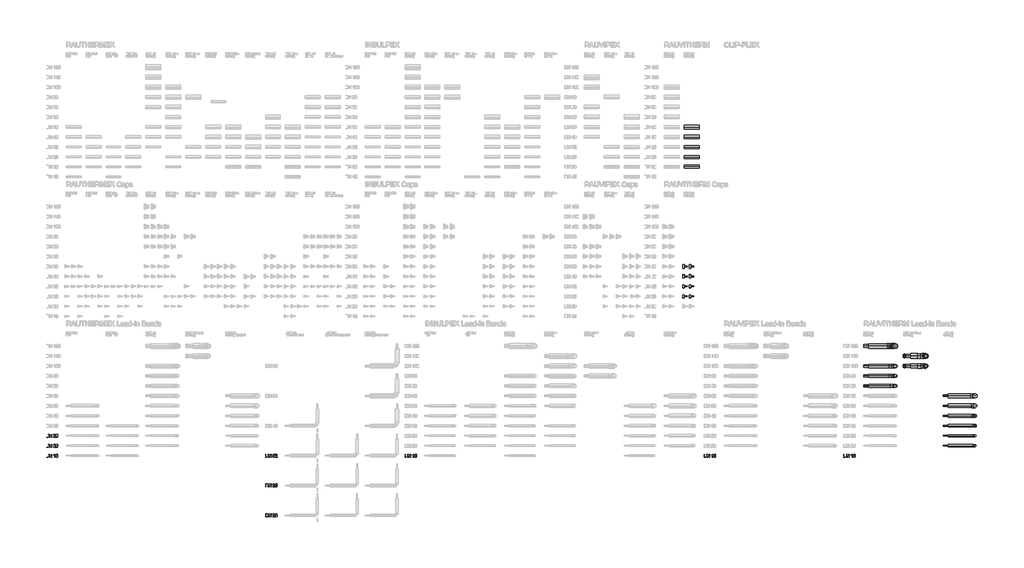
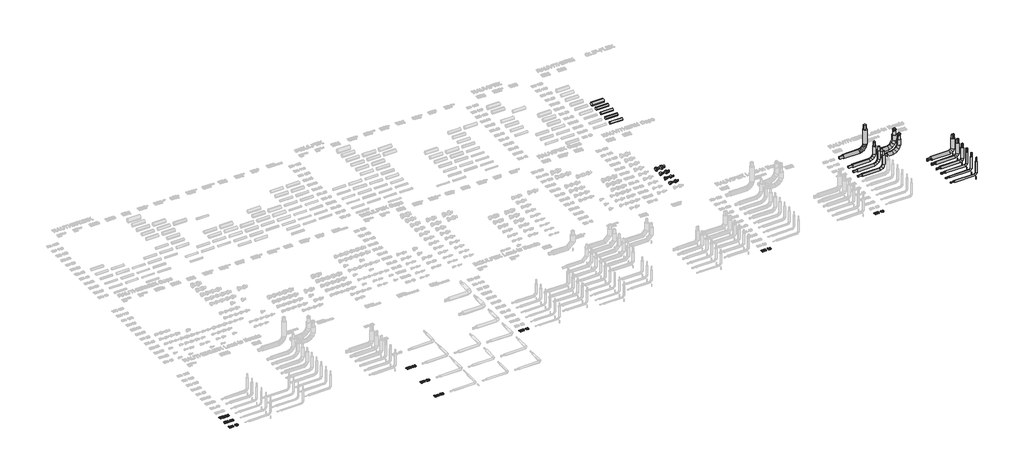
# One storey, part 8 of 44: 20 pipe fittings, 9 proxies, 5 pipe segments.
"""IFC4 building model written with IfcOpenShell, lengths in millimetres."""

from ifc_helpers import new_model, si_unit, point, frame, frame_2d, origin, origin_with_axes, place, context, project, spatial, polyline, circle_curve, trimmed, segment, composite_curve, outline, extrude, transform, mapped, element, save
from components import dh_duo_cap_b7e61209, dh_duo_cap_4544f480, dh_duo_cap_27d9f26a, dh_duo_cap_68a2c823, dh_lead_in_bend_4d10f37f, dh_lead_in_bend_729ed1e1, dh_lead_in_bend_01470123, dh_lead_in_bend_c489b661, dh_lead_in_bend_f1abdf10, dh_lead_in_bend_31b992d6, dh_lead_in_bend_53604a29, dh_lead_in_bend_594914a1, dh_lead_in_bend_a448e4b1, dh_lead_in_bend_b3935c15, dh_lead_in_bend_179b0c8a, dh_lead_in_bend_0ec1a931

model = new_model("IFC4")

# Units and contexts
model_context = context("Model", 3, world=origin())
ifc_project = project(units=[si_unit("LENGTHUNIT", "METRE", prefix="MILLI")], contexts=[model_context])

# Site, building, storey
site = spatial("IfcSite", under=ifc_project)
building = spatial("IfcBuilding", under=site)
storey = spatial("IfcBuildingStorey", under=building, Name="REHAU Starting view", Elevation=0.0)

# Proxies
placement = place(None, origin())
element("IfcBuildingElementProxy", 1, Name="150", ObjectType="150", at=placement, inside=storey, context=model_context, shape_type="SweptSolid", body=[
    extrude(outline(polyline([(16.4811134, -75.0), (16.4811134, 75.6844652), (68.4628393, 75.6844652), (95.3550131, 73.5139615), (117.5015093, 62.735019), (127.9217668, 51.2571007), (135.343786, 36.9832793), (139.7859611, 20.1894663), (141.2666861, 1.151573), (137.2567724, -29.2538739), (126.9560765, -51.1980349), (113.1972899, -64.864851), (95.1894663, -72.424826), (70.9644369, -75.0), (16.4811134, -75.0)]), holes=[polyline([(35.3166715, -56.1644418), (68.6467803, -56.1644418), (92.8902038, -53.4421151), (106.8697196, -45.7533814), (118.3292437, -27.0465819), (122.431128, 1.4458786), (120.4215726, 21.9736939), (114.3929064, 37.1304321), (105.4855636, 47.5414926), (94.8399784, 53.8322747), (68.1317455, 56.8489071), (35.3166715, 56.8489071), (35.3166715, -56.1644418)])]), origin_with_axes(), (0.0, 0.0, 1.0), 20.0),
    extrude(outline(polyline([(167.1655786, -75.0), (167.1655786, 75.6844652), (187.3255119, 75.6844652), (266.0522589, -43.6932422), (266.0522589, 75.6844652), (284.8878171, 75.6844652), (284.8878171, -75.0), (264.7278837, -75.0), (186.0011368, 44.4144956), (186.0011368, -75.0), (167.1655786, -75.0)])), origin_with_axes(), (0.0, 0.0, 1.0), 20.0),
    extrude(outline(polyline([(440.2811718, -75.0), (421.4456137, -75.0), (421.4456137, 42.4279329), (403.6033369, 29.7176099), (383.7744974, 20.2078604), (383.7744974, 38.0133489), (411.3840411, 55.6348965), (428.141066, 75.6844652), (440.2811718, 75.6844652), (440.2811718, -75.0)])), origin_with_axes(), (0.0, 0.0, 1.0), 20.0),
    extrude(outline(polyline([(485.0156224, -34.9744389), (503.8511806, -32.6199942), (507.3092713, -43.927767), (513.3425361, -52.0257694), (521.9233836, -56.8956073), (533.0242228, -58.5188866), (546.525492, -56.2610109), (556.6422469, -49.4873836), (562.9606202, -38.9797541), (565.0667446, -25.5198716), (563.0939774, -12.8463369), (557.1756758, -3.1526463), (547.2658545, 3.00018), (533.3185284, 5.0511222), (516.7822327, 1.7769724), (506.2056254, -6.7211017), (487.3700672, -4.3666569), (503.8511806, 73.3300205), (576.8389684, 73.3300205), (576.8389684, 54.4944623), (519.0814952, 54.4944623), (511.0248795, 12.9973732), (524.4801635, 21.1643535), (538.5792409, 23.8866803), (556.1777959, 20.511363), (570.7873096, 10.3854111), (580.6235545, -5.0472386), (583.9023027, -24.3426493), (580.9500497, -43.1782074), (572.0932907, -59.2914388), (555.1339307, -72.8386933), (532.9506464, -77.3544448), (514.4507806, -74.4527755), (499.7125081, -65.7477678), (489.6095489, -52.2510971), (485.0156224, -34.9744389)])), origin_with_axes(), (0.0, 0.0, 1.0), 20.0),
])
element("IfcBuildingElementProxy", 2, Name="150", ObjectType="150", at=placement, inside=storey, context=model_context, shape_type="SweptSolid", body=[
    extrude(outline(polyline([(16.4811134, 425.0), (16.4811134, 575.6844652), (68.4628393, 575.6844652), (95.3550131, 573.5139615), (117.5015093, 562.735019), (127.9217668, 551.2571007), (135.343786, 536.9832793), (139.7859611, 520.1894663), (141.2666861, 501.151573), (137.2567724, 470.7461261), (126.9560765, 448.8019651), (113.1972899, 435.135149), (95.1894663, 427.575174), (70.9644369, 425.0), (16.4811134, 425.0)]), holes=[polyline([(35.3166715, 443.8355582), (68.6467803, 443.8355582), (92.8902038, 446.5578849), (106.8697196, 454.2466186), (118.3292437, 472.9534181), (122.431128, 501.4458786), (120.4215726, 521.9736939), (114.3929064, 537.1304321), (105.4855636, 547.5414926), (94.8399784, 553.8322747), (68.1317455, 556.8489071), (35.3166715, 556.8489071), (35.3166715, 443.8355582)])]), origin_with_axes(), (0.0, 0.0, 1.0), 20.0),
    extrude(outline(polyline([(167.1655786, 425.0), (167.1655786, 575.6844652), (187.3255119, 575.6844652), (266.0522589, 456.3067578), (266.0522589, 575.6844652), (284.8878171, 575.6844652), (284.8878171, 425.0), (264.7278837, 425.0), (186.0011368, 544.4144956), (186.0011368, 425.0), (167.1655786, 425.0)])), origin_with_axes(), (0.0, 0.0, 1.0), 20.0),
    extrude(outline(polyline([(466.1800643, 443.8355582), (466.1800643, 425.0), (367.293384, 425.0), (369.316735, 437.9862344), (380.757865, 457.9806209), (404.3391009, 479.8144173), (436.8598693, 511.1947515), (442.9575133, 522.0104821), (444.9900614, 532.5319072), (443.0724765, 541.9634818), (437.3197218, 549.8039669), (428.4767583, 555.087672), (417.2885471, 556.8489071), (405.5393159, 555.1290587), (396.4112439, 549.9695138), (390.5205335, 541.7749423), (388.4833869, 530.9500146), (369.6478288, 533.3044594), (374.214164, 551.5238152), (384.0871971, 564.8319464), (398.7518931, 572.9713355), (417.6932173, 575.6844652), (436.7724973, 572.6678329), (451.4096022, 563.6179358), (460.7216152, 550.0982725), (463.8256195, 533.6723414), (460.4778934, 515.8116705), (449.349463, 497.3439944), (422.3653187, 471.5370724), (400.6970691, 453.4188841), (392.1989951, 443.8355582), (466.1800643, 443.8355582)])), origin_with_axes(), (0.0, 0.0, 1.0), 20.0),
    extrude(outline(polyline([(485.0156224, 499.128222), (486.3997784, 523.2474853), (490.5522465, 542.4831152), (497.4316398, 557.1294171), (506.9965717, 567.4806967), (519.31602, 573.6335231), (534.4589626, 575.6844652), (556.4583059, 570.8284229), (571.6518323, 556.830513), (580.4810002, 534.5368641), (583.9023027, 499.128222), (582.5319423, 475.1469145), (578.420861, 455.9572699), (571.5828544, 441.2971724), (562.0317181, 430.904506), (549.6846787, 424.7102929), (534.4589626, 422.6455552), (514.8876404, 426.2324047), (500.0252078, 436.992953), (488.7680188, 462.4779783), (485.0156224, 499.128222)]), holes=[polyline([(503.8511806, 499.1650102), (506.0584726, 469.536714), (512.6803485, 452.3888145), (522.5395859, 444.2080387), (534.4589626, 441.4811134), (546.3783392, 444.2172357), (556.2375767, 452.4256027), (562.8594526, 469.5826993), (565.0667446, 499.1650102), (562.933029, 528.1265203), (556.5318823, 545.407777), (546.6910389, 553.9886246), (534.2382334, 556.8489071), (522.4476155, 554.3289154), (512.9746541, 546.7689404), (506.132049, 528.4116288), (503.8511806, 499.1650102)])]), origin_with_axes(), (0.0, 0.0, 1.0), 20.0),
])
element("IfcBuildingElementProxy", 3, Name="150", ObjectType="150", at=placement, inside=storey, context=model_context, shape_type="SweptSolid", body=[
    extrude(outline(polyline([(16.4811134, 925.0), (16.4811134, 1075.6844652), (68.4628393, 1075.6844652), (95.3550131, 1073.5139615), (117.5015093, 1062.735019), (127.9217668, 1051.2571007), (135.343786, 1036.9832793), (139.7859611, 1020.1894663), (141.2666861, 1001.151573), (137.2567724, 970.7461261), (126.9560765, 948.8019651), (113.1972899, 935.135149), (95.1894663, 927.575174), (70.9644369, 925.0), (16.4811134, 925.0)]), holes=[polyline([(35.3166715, 943.8355582), (68.6467803, 943.8355582), (92.8902038, 946.5578849), (106.8697196, 954.2466186), (118.3292437, 972.9534181), (122.431128, 1001.4458786), (120.4215726, 1021.9736939), (114.3929064, 1037.1304321), (105.4855636, 1047.5414926), (94.8399784, 1053.8322747), (68.1317455, 1056.8489071), (35.3166715, 1056.8489071), (35.3166715, 943.8355582)])]), origin_with_axes(), (0.0, 0.0, 1.0), 20.0),
    extrude(outline(polyline([(167.1655786, 925.0), (167.1655786, 1075.6844652), (187.3255119, 1075.6844652), (266.0522589, 956.3067578), (266.0522589, 1075.6844652), (284.8878171, 1075.6844652), (284.8878171, 925.0), (264.7278837, 925.0), (186.0011368, 1044.4144956), (186.0011368, 925.0), (167.1655786, 925.0)])), origin_with_axes(), (0.0, 0.0, 1.0), 20.0),
    extrude(outline(polyline([(466.1800643, 943.8355582), (466.1800643, 925.0), (367.293384, 925.0), (369.316735, 937.9862344), (380.757865, 957.9806209), (404.3391009, 979.8144173), (436.8598693, 1011.1947515), (442.9575133, 1022.0104821), (444.9900614, 1032.5319072), (443.0724765, 1041.9634818), (437.3197218, 1049.8039669), (428.4767583, 1055.087672), (417.2885471, 1056.8489071), (405.5393159, 1055.1290587), (396.4112439, 1049.9695138), (390.5205335, 1041.7749423), (388.4833869, 1030.9500146), (369.6478288, 1033.3044594), (374.214164, 1051.5238152), (384.0871971, 1064.8319464), (398.7518931, 1072.9713355), (417.6932173, 1075.6844652), (436.7724973, 1072.6678329), (451.4096022, 1063.6179358), (460.7216152, 1050.0982725), (463.8256195, 1033.6723414), (460.4778934, 1015.8116705), (449.349463, 997.3439944), (422.3653187, 971.5370724), (400.6970691, 953.4188841), (392.1989951, 943.8355582), (466.1800643, 943.8355582)])), origin_with_axes(), (0.0, 0.0, 1.0), 20.0),
    extrude(outline(polyline([(485.0156224, 965.0255611), (503.8511806, 967.3800058), (507.3092713, 956.072233), (513.3425361, 947.9742306), (521.9233836, 943.1043927), (533.0242228, 941.4811134), (546.525492, 943.7389891), (556.6422469, 950.5126164), (562.9606202, 961.0202459), (565.0667446, 974.4801284), (563.0939774, 987.1536631), (557.1756758, 996.8473537), (547.2658545, 1003.00018), (533.3185284, 1005.0511222), (516.7822327, 1001.7769724), (506.2056254, 993.2788983), (487.3700672, 995.6333431), (503.8511806, 1073.3300205), (576.8389684, 1073.3300205), (576.8389684, 1054.4944623), (519.0814952, 1054.4944623), (511.0248795, 1012.9973732), (524.4801635, 1021.1643535), (538.5792409, 1023.8866803), (556.1777959, 1020.511363), (570.7873096, 1010.3854111), (580.6235545, 994.9527614), (583.9023027, 975.6573507), (580.9500497, 956.8217926), (572.0932907, 940.7085612), (555.1339307, 927.1613067), (532.9506464, 922.6455552), (514.4507806, 925.5472245), (499.7125081, 934.2522322), (489.6095489, 947.7489029), (485.0156224, 965.0255611)])), origin_with_axes(), (0.0, 0.0, 1.0), 20.0),
])
element("IfcBuildingElementProxy", 4, Name="150", ObjectType="150", at=placement, inside=storey, context=model_context, shape_type="SweptSolid", body=[
    extrude(outline(polyline([(18016.4811134, -75.0), (18016.4811134, 75.6844652), (18068.4628393, 75.6844652), (18095.3550131, 73.5139615), (18117.5015093, 62.735019), (18127.9217668, 51.2571007), (18135.343786, 36.9832793), (18139.7859611, 20.1894663), (18141.2666861, 1.151573), (18137.2567724, -29.2538739), (18126.9560765, -51.1980349), (18113.1972899, -64.864851), (18095.1894663, -72.424826), (18070.9644369, -75.0), (18016.4811134, -75.0)]), holes=[polyline([(18035.3166715, -56.1644418), (18068.6467803, -56.1644418), (18092.8902038, -53.4421151), (18106.8697196, -45.7533814), (18118.3292437, -27.0465819), (18122.431128, 1.4458786), (18120.4215726, 21.9736939), (18114.3929064, 37.1304321), (18105.4855636, 47.5414926), (18094.8399784, 53.8322747), (18068.1317455, 56.8489071), (18035.3166715, 56.8489071), (18035.3166715, -56.1644418)])]), origin_with_axes(), (0.0, 0.0, 1.0), 20.0),
    extrude(outline(polyline([(18167.1655786, -75.0), (18167.1655786, 75.6844652), (18187.3255119, 75.6844652), (18266.0522589, -43.6932422), (18266.0522589, 75.6844652), (18284.8878171, 75.6844652), (18284.8878171, -75.0), (18264.7278837, -75.0), (18186.0011368, 44.4144956), (18186.0011368, -75.0), (18167.1655786, -75.0)])), origin_with_axes(), (0.0, 0.0, 1.0), 20.0),
    extrude(outline(polyline([(18440.2811718, -75.0), (18421.4456137, -75.0), (18421.4456137, 42.4279329), (18403.6033369, 29.7176099), (18383.7744974, 20.2078604), (18383.7744974, 38.0133489), (18411.3840411, 55.6348965), (18428.141066, 75.6844652), (18440.2811718, 75.6844652), (18440.2811718, -75.0)])), origin_with_axes(), (0.0, 0.0, 1.0), 20.0),
    extrude(outline(polyline([(18485.0156224, -34.9744389), (18503.8511806, -32.6199942), (18507.3092713, -43.927767), (18513.3425361, -52.0257694), (18521.9233836, -56.8956073), (18533.0242228, -58.5188866), (18546.525492, -56.2610109), (18556.6422469, -49.4873836), (18562.9606202, -38.9797541), (18565.0667446, -25.5198716), (18563.0939774, -12.8463369), (18557.1756758, -3.1526463), (18547.2658545, 3.00018), (18533.3185284, 5.0511222), (18516.7822327, 1.7769724), (18506.2056254, -6.7211017), (18487.3700672, -4.3666569), (18503.8511806, 73.3300205), (18576.8389684, 73.3300205), (18576.8389684, 54.4944623), (18519.0814952, 54.4944623), (18511.0248795, 12.9973732), (18524.4801635, 21.1643535), (18538.5792409, 23.8866803), (18556.1777959, 20.511363), (18570.7873096, 10.3854111), (18580.6235545, -5.0472386), (18583.9023027, -24.3426493), (18580.9500497, -43.1782074), (18572.0932907, -59.2914388), (18555.1339307, -72.8386933), (18532.9506464, -77.3544448), (18514.4507806, -74.4527755), (18499.7125081, -65.7477678), (18489.6095489, -52.2510971), (18485.0156224, -34.9744389)])), origin_with_axes(), (0.0, 0.0, 1.0), 20.0),
])
element("IfcBuildingElementProxy", 5, Name="150", ObjectType="150", at=placement, inside=storey, context=model_context, shape_type="SweptSolid", body=[
    extrude(outline(polyline([(33016.4811134, -75.0), (33016.4811134, 75.6844652), (33068.4628393, 75.6844652), (33095.3550131, 73.5139615), (33117.5015093, 62.735019), (33127.9217668, 51.2571007), (33135.343786, 36.9832793), (33139.7859611, 20.1894663), (33141.2666861, 1.151573), (33137.2567724, -29.2538739), (33126.9560765, -51.1980349), (33113.1972899, -64.864851), (33095.1894663, -72.424826), (33070.9644369, -75.0), (33016.4811134, -75.0)]), holes=[polyline([(33035.3166715, -56.1644418), (33068.6467803, -56.1644418), (33092.8902038, -53.4421151), (33106.8697196, -45.7533814), (33118.3292437, -27.0465819), (33122.431128, 1.4458786), (33120.4215726, 21.9736939), (33114.3929064, 37.1304321), (33105.4855636, 47.5414926), (33094.8399784, 53.8322747), (33068.1317455, 56.8489071), (33035.3166715, 56.8489071), (33035.3166715, -56.1644418)])]), origin_with_axes(), (0.0, 0.0, 1.0), 20.0),
    extrude(outline(polyline([(33167.1655786, -75.0), (33167.1655786, 75.6844652), (33187.3255119, 75.6844652), (33266.0522589, -43.6932422), (33266.0522589, 75.6844652), (33284.8878171, 75.6844652), (33284.8878171, -75.0), (33264.7278837, -75.0), (33186.0011368, 44.4144956), (33186.0011368, -75.0), (33167.1655786, -75.0)])), origin_with_axes(), (0.0, 0.0, 1.0), 20.0),
    extrude(outline(polyline([(33440.2811718, -75.0), (33421.4456137, -75.0), (33421.4456137, 42.4279329), (33403.6033369, 29.7176099), (33383.7744974, 20.2078604), (33383.7744974, 38.0133489), (33411.3840411, 55.6348965), (33428.141066, 75.6844652), (33440.2811718, 75.6844652), (33440.2811718, -75.0)])), origin_with_axes(), (0.0, 0.0, 1.0), 20.0),
    extrude(outline(polyline([(33485.0156224, -34.9744389), (33503.8511806, -32.6199942), (33507.3092713, -43.927767), (33513.3425361, -52.0257694), (33521.9233836, -56.8956073), (33533.0242228, -58.5188866), (33546.525492, -56.2610109), (33556.6422469, -49.4873836), (33562.9606202, -38.9797541), (33565.0667446, -25.5198716), (33563.0939774, -12.8463369), (33557.1756758, -3.1526463), (33547.2658545, 3.00018), (33533.3185284, 5.0511222), (33516.7822327, 1.7769724), (33506.2056254, -6.7211017), (33487.3700672, -4.3666569), (33503.8511806, 73.3300205), (33576.8389684, 73.3300205), (33576.8389684, 54.4944623), (33519.0814952, 54.4944623), (33511.0248795, 12.9973732), (33524.4801635, 21.1643535), (33538.5792409, 23.8866803), (33556.1777959, 20.511363), (33570.7873096, 10.3854111), (33580.6235545, -5.0472386), (33583.9023027, -24.3426493), (33580.9500497, -43.1782074), (33572.0932907, -59.2914388), (33555.1339307, -72.8386933), (33532.9506464, -77.3544448), (33514.4507806, -74.4527755), (33499.7125081, -65.7477678), (33489.6095489, -52.2510971), (33485.0156224, -34.9744389)])), origin_with_axes(), (0.0, 0.0, 1.0), 20.0),
])
element("IfcBuildingElementProxy", 6, Name="150", ObjectType="150", at=placement, inside=storey, context=model_context, shape_type="SweptSolid", body=[
    extrude(outline(polyline([(40016.4811134, -75.0), (40016.4811134, 75.6844652), (40068.4628393, 75.6844652), (40095.3550131, 73.5139615), (40117.5015093, 62.735019), (40127.9217668, 51.2571007), (40135.343786, 36.9832793), (40139.7859611, 20.1894663), (40141.2666861, 1.151573), (40137.2567724, -29.2538739), (40126.9560765, -51.1980349), (40113.1972899, -64.864851), (40095.1894663, -72.424826), (40070.9644369, -75.0), (40016.4811134, -75.0)]), holes=[polyline([(40035.3166715, -56.1644418), (40068.6467803, -56.1644418), (40092.8902038, -53.4421151), (40106.8697196, -45.7533814), (40118.3292437, -27.0465819), (40122.431128, 1.4458786), (40120.4215726, 21.9736939), (40114.3929064, 37.1304321), (40105.4855636, 47.5414926), (40094.8399784, 53.8322747), (40068.1317455, 56.8489071), (40035.3166715, 56.8489071), (40035.3166715, -56.1644418)])]), origin_with_axes(), (0.0, 0.0, 1.0), 20.0),
    extrude(outline(polyline([(40167.1655786, -75.0), (40167.1655786, 75.6844652), (40187.3255119, 75.6844652), (40266.0522589, -43.6932422), (40266.0522589, 75.6844652), (40284.8878171, 75.6844652), (40284.8878171, -75.0), (40264.7278837, -75.0), (40186.0011368, 44.4144956), (40186.0011368, -75.0), (40167.1655786, -75.0)])), origin_with_axes(), (0.0, 0.0, 1.0), 20.0),
    extrude(outline(polyline([(40440.2811718, -75.0), (40421.4456137, -75.0), (40421.4456137, 42.4279329), (40403.6033369, 29.7176099), (40383.7744974, 20.2078604), (40383.7744974, 38.0133489), (40411.3840411, 55.6348965), (40428.141066, 75.6844652), (40440.2811718, 75.6844652), (40440.2811718, -75.0)])), origin_with_axes(), (0.0, 0.0, 1.0), 20.0),
    extrude(outline(polyline([(40485.0156224, -34.9744389), (40503.8511806, -32.6199942), (40507.3092713, -43.927767), (40513.3425361, -52.0257694), (40521.9233836, -56.8956073), (40533.0242228, -58.5188866), (40546.525492, -56.2610109), (40556.6422469, -49.4873836), (40562.9606202, -38.9797541), (40565.0667446, -25.5198716), (40563.0939774, -12.8463369), (40557.1756758, -3.1526463), (40547.2658545, 3.00018), (40533.3185284, 5.0511222), (40516.7822327, 1.7769724), (40506.2056254, -6.7211017), (40487.3700672, -4.3666569), (40503.8511806, 73.3300205), (40576.8389684, 73.3300205), (40576.8389684, 54.4944623), (40519.0814952, 54.4944623), (40511.0248795, 12.9973732), (40524.4801635, 21.1643535), (40538.5792409, 23.8866803), (40556.1777959, 20.511363), (40570.7873096, 10.3854111), (40580.6235545, -5.0472386), (40583.9023027, -24.3426493), (40580.9500497, -43.1782074), (40572.0932907, -59.2914388), (40555.1339307, -72.8386933), (40532.9506464, -77.3544448), (40514.4507806, -74.4527755), (40499.7125081, -65.7477678), (40489.6095489, -52.2510971), (40485.0156224, -34.9744389)])), origin_with_axes(), (0.0, 0.0, 1.0), 20.0),
])
element("IfcBuildingElementProxy", 7, Name="150", ObjectType="150", at=placement, inside=storey, context=model_context, shape_type="SweptSolid", body=[
    extrude(outline(polyline([(11016.4811134, -3075.0), (11016.4811134, -2924.3155348), (11068.4628393, -2924.3155348), (11095.3550131, -2926.4860385), (11117.5015093, -2937.264981), (11127.9217668, -2948.7428993), (11135.343786, -2963.0167207), (11139.7859611, -2979.8105337), (11141.2666861, -2998.848427), (11137.2567724, -3029.2538739), (11126.9560765, -3051.1980349), (11113.1972899, -3064.864851), (11095.1894663, -3072.424826), (11070.9644369, -3075.0), (11016.4811134, -3075.0)]), holes=[polyline([(11035.3166715, -3056.1644418), (11068.6467803, -3056.1644418), (11092.8902038, -3053.4421151), (11106.8697196, -3045.7533814), (11118.3292437, -3027.0465819), (11122.431128, -2998.5541214), (11120.4215726, -2978.0263061), (11114.3929064, -2962.8695679), (11105.4855636, -2952.4585074), (11094.8399784, -2946.1677253), (11068.1317455, -2943.1510929), (11035.3166715, -2943.1510929), (11035.3166715, -3056.1644418)])]), origin_with_axes(), (0.0, 0.0, 1.0), 20.0),
    extrude(outline(polyline([(11167.1655786, -3075.0), (11167.1655786, -2924.3155348), (11187.3255119, -2924.3155348), (11266.0522589, -3043.6932422), (11266.0522589, -2924.3155348), (11284.8878171, -2924.3155348), (11284.8878171, -3075.0), (11264.7278837, -3075.0), (11186.0011368, -2955.5855044), (11186.0011368, -3075.0), (11167.1655786, -3075.0)])), origin_with_axes(), (0.0, 0.0, 1.0), 20.0),
    extrude(outline(polyline([(11466.1800643, -3056.1644418), (11466.1800643, -3075.0), (11367.293384, -3075.0), (11369.316735, -3062.0137656), (11380.757865, -3042.0193791), (11404.3391009, -3020.1855827), (11436.8598693, -2988.8052485), (11442.9575133, -2977.9895179), (11444.9900614, -2967.4680928), (11443.0724765, -2958.0365182), (11437.3197218, -2950.1960331), (11428.4767583, -2944.912328), (11417.2885471, -2943.1510929), (11405.5393159, -2944.8709413), (11396.4112439, -2950.0304862), (11390.5205335, -2958.2250577), (11388.4833869, -2969.0499854), (11369.6478288, -2966.6955406), (11374.214164, -2948.4761848), (11384.0871971, -2935.1680536), (11398.7518931, -2927.0286645), (11417.6932173, -2924.3155348), (11436.7724973, -2927.3321671), (11451.4096022, -2936.3820642), (11460.7216152, -2949.9017275), (11463.8256195, -2966.3276586), (11460.4778934, -2984.1883295), (11449.349463, -3002.6560056), (11422.3653187, -3028.4629276), (11400.6970691, -3046.5811159), (11392.1989951, -3056.1644418), (11466.1800643, -3056.1644418)])), origin_with_axes(), (0.0, 0.0, 1.0), 20.0),
    extrude(outline(polyline([(11485.0156224, -3000.871778), (11486.3997784, -2976.7525147), (11490.5522465, -2957.5168848), (11497.4316398, -2942.8705829), (11506.9965717, -2932.5193033), (11519.31602, -2926.3664769), (11534.4589626, -2924.3155348), (11556.4583059, -2929.1715771), (11571.6518323, -2943.169487), (11580.4810002, -2965.4631359), (11583.9023027, -3000.871778), (11582.5319423, -3024.8530855), (11578.420861, -3044.0427301), (11571.5828544, -3058.7028276), (11562.0317181, -3069.095494), (11549.6846787, -3075.2897071), (11534.4589626, -3077.3544448), (11514.8876404, -3073.7675953), (11500.0252078, -3063.007047), (11488.7680188, -3037.5220217), (11485.0156224, -3000.871778)]), holes=[polyline([(11503.8511806, -3000.8349898), (11506.0584726, -3030.463286), (11512.6803485, -3047.6111855), (11522.5395859, -3055.7919613), (11534.4589626, -3058.5188866), (11546.3783392, -3055.7827643), (11556.2375767, -3047.5743973), (11562.8594526, -3030.4173007), (11565.0667446, -3000.8349898), (11562.933029, -2971.8734797), (11556.5318823, -2954.592223), (11546.6910389, -2946.0113754), (11534.2382334, -2943.1510929), (11522.4476155, -2945.6710846), (11512.9746541, -2953.2310596), (11506.132049, -2971.5883712), (11503.8511806, -3000.8349898)])]), origin_with_axes(), (0.0, 0.0, 1.0), 20.0),
])
element("IfcBuildingElementProxy", 8, Name="150", ObjectType="150", at=placement, inside=storey, context=model_context, shape_type="SweptSolid", body=[
    extrude(outline(polyline([(11016.4811134, -1575.0), (11016.4811134, -1424.3155348), (11068.4628393, -1424.3155348), (11095.3550131, -1426.4860385), (11117.5015093, -1437.264981), (11127.9217668, -1448.7428993), (11135.343786, -1463.0167207), (11139.7859611, -1479.8105337), (11141.2666861, -1498.848427), (11137.2567724, -1529.2538739), (11126.9560765, -1551.1980349), (11113.1972899, -1564.864851), (11095.1894663, -1572.424826), (11070.9644369, -1575.0), (11016.4811134, -1575.0)]), holes=[polyline([(11035.3166715, -1556.1644418), (11068.6467803, -1556.1644418), (11092.8902038, -1553.4421151), (11106.8697196, -1545.7533814), (11118.3292437, -1527.0465819), (11122.431128, -1498.5541214), (11120.4215726, -1478.0263061), (11114.3929064, -1462.8695679), (11105.4855636, -1452.4585074), (11094.8399784, -1446.1677253), (11068.1317455, -1443.1510929), (11035.3166715, -1443.1510929), (11035.3166715, -1556.1644418)])]), origin_with_axes(), (0.0, 0.0, 1.0), 20.0),
    extrude(outline(polyline([(11167.1655786, -1575.0), (11167.1655786, -1424.3155348), (11187.3255119, -1424.3155348), (11266.0522589, -1543.6932422), (11266.0522589, -1424.3155348), (11284.8878171, -1424.3155348), (11284.8878171, -1575.0), (11264.7278837, -1575.0), (11186.0011368, -1455.5855044), (11186.0011368, -1575.0), (11167.1655786, -1575.0)])), origin_with_axes(), (0.0, 0.0, 1.0), 20.0),
    extrude(outline(polyline([(11466.1800643, -1556.1644418), (11466.1800643, -1575.0), (11367.293384, -1575.0), (11369.316735, -1562.0137656), (11380.757865, -1542.0193791), (11404.3391009, -1520.1855827), (11436.8598693, -1488.8052485), (11442.9575133, -1477.9895179), (11444.9900614, -1467.4680928), (11443.0724765, -1458.0365182), (11437.3197218, -1450.1960331), (11428.4767583, -1444.912328), (11417.2885471, -1443.1510929), (11405.5393159, -1444.8709413), (11396.4112439, -1450.0304862), (11390.5205335, -1458.2250577), (11388.4833869, -1469.0499854), (11369.6478288, -1466.6955406), (11374.214164, -1448.4761848), (11384.0871971, -1435.1680536), (11398.7518931, -1427.0286645), (11417.6932173, -1424.3155348), (11436.7724973, -1427.3321671), (11451.4096022, -1436.3820642), (11460.7216152, -1449.9017275), (11463.8256195, -1466.3276586), (11460.4778934, -1484.1883295), (11449.349463, -1502.6560056), (11422.3653187, -1528.4629276), (11400.6970691, -1546.5811159), (11392.1989951, -1556.1644418), (11466.1800643, -1556.1644418)])), origin_with_axes(), (0.0, 0.0, 1.0), 20.0),
    extrude(outline(polyline([(11485.0156224, -1534.9744389), (11503.8511806, -1532.6199942), (11507.3092713, -1543.927767), (11513.3425361, -1552.0257694), (11521.9233836, -1556.8956073), (11533.0242228, -1558.5188866), (11546.525492, -1556.2610109), (11556.6422469, -1549.4873836), (11562.9606202, -1538.9797541), (11565.0667446, -1525.5198716), (11563.0939774, -1512.8463369), (11557.1756758, -1503.1526463), (11547.2658545, -1496.99982), (11533.3185284, -1494.9488778), (11516.7822327, -1498.2230276), (11506.2056254, -1506.7211017), (11487.3700672, -1504.3666569), (11503.8511806, -1426.6699795), (11576.8389684, -1426.6699795), (11576.8389684, -1445.5055377), (11519.0814952, -1445.5055377), (11511.0248795, -1487.0026268), (11524.4801635, -1478.8356465), (11538.5792409, -1476.1133197), (11556.1777959, -1479.488637), (11570.7873096, -1489.6145889), (11580.6235545, -1505.0472386), (11583.9023027, -1524.3426493), (11580.9500497, -1543.1782074), (11572.0932907, -1559.2914388), (11555.1339307, -1572.8386933), (11532.9506464, -1577.3544448), (11514.4507806, -1574.4527755), (11499.7125081, -1565.7477678), (11489.6095489, -1552.2510971), (11485.0156224, -1534.9744389)])), origin_with_axes(), (0.0, 0.0, 1.0), 20.0),
])
element("IfcBuildingElementProxy", 9, Name="150", ObjectType="150", at=placement, inside=storey, context=model_context, shape_type="SweptSolid", body=[
    extrude(outline(polyline([(11016.4811134, -75.0), (11016.4811134, 75.6844652), (11068.4628393, 75.6844652), (11095.3550131, 73.5139615), (11117.5015093, 62.735019), (11127.9217668, 51.2571007), (11135.343786, 36.9832793), (11139.7859611, 20.1894663), (11141.2666861, 1.151573), (11137.2567724, -29.2538739), (11126.9560765, -51.1980349), (11113.1972899, -64.864851), (11095.1894663, -72.424826), (11070.9644369, -75.0), (11016.4811134, -75.0)]), holes=[polyline([(11035.3166715, -56.1644418), (11068.6467803, -56.1644418), (11092.8902038, -53.4421151), (11106.8697196, -45.7533814), (11118.3292437, -27.0465819), (11122.431128, 1.4458786), (11120.4215726, 21.9736939), (11114.3929064, 37.1304321), (11105.4855636, 47.5414926), (11094.8399784, 53.8322747), (11068.1317455, 56.8489071), (11035.3166715, 56.8489071), (11035.3166715, -56.1644418)])]), origin_with_axes(), (0.0, 0.0, 1.0), 20.0),
    extrude(outline(polyline([(11167.1655786, -75.0), (11167.1655786, 75.6844652), (11187.3255119, 75.6844652), (11266.0522589, -43.6932422), (11266.0522589, 75.6844652), (11284.8878171, 75.6844652), (11284.8878171, -75.0), (11264.7278837, -75.0), (11186.0011368, 44.4144956), (11186.0011368, -75.0), (11167.1655786, -75.0)])), origin_with_axes(), (0.0, 0.0, 1.0), 20.0),
    extrude(outline(polyline([(11369.6478288, -34.9744389), (11388.4833869, -32.6199942), (11392.7002343, -44.4565974), (11398.8760533, -52.4488337), (11407.3143465, -57.0013734), (11418.3186167, -58.5188866), (11431.2312747, -56.4311563), (11441.2008768, -50.1679653), (11447.5744324, -40.8237626), (11449.6989509, -29.4929972), (11447.5928265, -18.7370474), (11441.2744532, -10.0136456), (11431.7095213, -4.2332997), (11419.8637211, -2.3065178), (11406.6567575, -4.3666569), (11408.7536848, 14.4689012), (11411.7703172, 14.248172), (11433.1442611, 19.6560374), (11440.2627777, 26.5170366), (11442.6356166, 36.2843035), (11440.9157683, 44.4190942), (11435.7562233, 51.0179774), (11427.8835486, 55.3911747), (11418.0243111, 56.8489071), (11408.1466795, 55.3773791), (11400.0716698, 50.9627951), (11394.1763608, 43.6051552), (11390.8378317, 33.3044594), (11372.0022735, 35.6589041), (11377.5480946, 52.5722789), (11387.4165291, 65.1998284), (11400.9177983, 73.063306), (11417.3621235, 75.6844652), (11440.0788367, 70.5157232), (11455.9713389, 56.3890546), (11461.4711747, 37.3879495), (11456.2472504, 20.0239194), (11440.7962066, 7.5527197), (11452.5868246, 2.7886479), (11461.324022, -5.3231501), (11466.7318873, -16.3412159), (11468.5345091, -29.824091), (11464.9292655, -48.1814026), (11454.1135348, -63.5220818), (11437.7887713, -73.896354), (11417.6564291, -77.3544448), (11399.4462704, -74.4021918), (11384.620626, -65.5454327), (11374.310733, -51.9981783), (11369.6478288, -34.9744389)])), origin_with_axes(), (0.0, 0.0, 1.0), 20.0),
    extrude(outline(polyline([(11581.547858, -56.1644418), (11581.547858, -75.0), (11482.6611777, -75.0), (11484.6845286, -62.0137656), (11496.1256587, -42.0193791), (11519.7068946, -20.1855827), (11552.227663, 11.1947515), (11558.325307, 22.0104821), (11560.3578551, 32.5319072), (11558.4402702, 41.9634818), (11552.6875155, 49.8039669), (11543.844552, 55.087672), (11532.6563408, 56.8489071), (11520.9071096, 55.1290587), (11511.7790376, 49.9695138), (11505.8883271, 41.7749423), (11503.8511806, 30.9500146), (11485.0156224, 33.3044594), (11489.5819577, 51.5238152), (11499.4549908, 64.8319464), (11514.1196868, 72.9713355), (11533.061011, 75.6844652), (11552.140291, 72.6678329), (11566.7773959, 63.6179358), (11576.0894089, 50.0982725), (11579.1934132, 33.6723414), (11575.8456871, 15.8116705), (11564.7172567, -2.6560056), (11537.7331123, -28.4629276), (11516.0648628, -46.5811159), (11507.5667887, -56.1644418), (11581.547858, -56.1644418)])), origin_with_axes(), (0.0, 0.0, 1.0), 20.0),
])

# Pipe fittings
dh_duo_cap_shape = dh_duo_cap_b7e61209(model_context)
element("IfcPipeFitting", 10, ObjectType="DH_DUO_CAP : RAUVITHERM DUO 11 Heating - Schrink Cap", at=placement, inside=storey, context=model_context, shape_type="MappedRepresentation", body=[
    mapped(dh_duo_cap_shape, transform((32000.0, 8000.0, 0.0), x_axis=(1.0, 0.0, 0.0), y_axis=(0.0, 1.0, 0.0), z_axis=(0.0, 0.0, 1.0))),
])
element("IfcPipeFitting", 11, ObjectType="DH_DUO_CAP : RAUVITHERM DUO 11 Heating - Rubber Cap", at=placement, inside=storey, context=model_context, shape_type="MappedRepresentation", body=[
    mapped(dh_duo_cap_shape, transform((32330.0, 8000.0, 0.0), x_axis=(1.0, 0.0, 0.0), y_axis=(0.0, 1.0, 0.0), z_axis=(0.0, 0.0, 1.0))),
])
dh_duo_cap_2_shape = dh_duo_cap_4544f480(model_context)
element("IfcPipeFitting", 12, ObjectType="DH_DUO_CAP : RAUVITHERM DUO 11 Heating - Rubber Cap", at=placement, inside=storey, context=model_context, shape_type="MappedRepresentation", body=[
    mapped(dh_duo_cap_2_shape, transform((32330.0, 8500.0, 0.0), x_axis=(1.0, 0.0, 0.0), y_axis=(0.0, 1.0, 0.0), z_axis=(0.0, 0.0, 1.0))),
])
element("IfcPipeFitting", 13, ObjectType="DH_DUO_CAP : RAUVITHERM DUO 11 Heating - Schrink Cap", at=placement, inside=storey, context=model_context, shape_type="MappedRepresentation", body=[
    mapped(dh_duo_cap_2_shape, transform((32000.0, 8500.0, 0.0), x_axis=(1.0, 0.0, 0.0), y_axis=(0.0, 1.0, 0.0), z_axis=(0.0, 0.0, 1.0))),
])
dh_duo_cap_3_shape = dh_duo_cap_27d9f26a(model_context)
element("IfcPipeFitting", 14, ObjectType="DH_DUO_CAP : RAUVITHERM DUO 11 Heating - Rubber Cap", at=placement, inside=storey, context=model_context, shape_type="MappedRepresentation", body=[
    mapped(dh_duo_cap_3_shape, transform((32330.0, 9000.0, 0.0), x_axis=(1.0, 0.0, 0.0), y_axis=(0.0, 1.0, 0.0), z_axis=(0.0, 0.0, 1.0))),
])
element("IfcPipeFitting", 15, ObjectType="DH_DUO_CAP : RAUVITHERM DUO 11 Heating - Schrink Cap", at=placement, inside=storey, context=model_context, shape_type="MappedRepresentation", body=[
    mapped(dh_duo_cap_3_shape, transform((32000.0, 9000.0, 0.0), x_axis=(1.0, 0.0, 0.0), y_axis=(0.0, 1.0, 0.0), z_axis=(0.0, 0.0, 1.0))),
])
dh_duo_cap_4_shape = dh_duo_cap_68a2c823(model_context)
element("IfcPipeFitting", 16, ObjectType="DH_DUO_CAP : RAUVITHERM DUO 11 Heating - Rubber Cap", at=placement, inside=storey, context=model_context, shape_type="MappedRepresentation", body=[
    mapped(dh_duo_cap_4_shape, transform((32330.0, 9500.0, 0.0), x_axis=(1.0, 0.0, 0.0), y_axis=(0.0, 1.0, 0.0), z_axis=(0.0, 0.0, 1.0))),
])
element("IfcPipeFitting", 17, ObjectType="DH_DUO_CAP : RAUVITHERM DUO 11 Heating - Schrink Cap", at=placement, inside=storey, context=model_context, shape_type="MappedRepresentation", body=[
    mapped(dh_duo_cap_4_shape, transform((32000.0, 9500.0, 0.0), x_axis=(1.0, 0.0, 0.0), y_axis=(0.0, 1.0, 0.0), z_axis=(0.0, 0.0, 1.0))),
])
dh_lead_in_bend_shape = dh_lead_in_bend_4d10f37f(model_context)
element("IfcPipeFitting", 18, ObjectType="DH_Lead-in Bend : RVT/RVX/RTX DUO 11 Heating Vertical", at=placement, inside=storey, context=model_context, shape_type="MappedRepresentation", body=[
    mapped(dh_lead_in_bend_shape, transform((46600.0, 1000.0, 0.0), x_axis=(1.0, 0.0, 0.0), y_axis=(0.0, 0.0, 1.0), z_axis=(0.0, -1.0, 0.0))),
])
dh_lead_in_bend_2_shape = dh_lead_in_bend_729ed1e1(model_context)
element("IfcPipeFitting", 19, ObjectType="DH_Lead-in Bend : RVT/RVX/RTX UNO 11 Heating Steel", at=placement, inside=storey, context=model_context, shape_type="MappedRepresentation", body=[
    mapped(dh_lead_in_bend_2_shape, transform((44127.0, 4500.0, 0.0), x_axis=(1.0, 0.0, 0.0), y_axis=(0.0, 0.0, 1.0), z_axis=(0.0, -1.0, 0.0))),
])
dh_lead_in_bend_3_shape = dh_lead_in_bend_01470123(model_context)
element("IfcPipeFitting", 20, ObjectType="DH_Lead-in Bend : RVT/RVX/RTX DUO 11 Heating Vertical", at=placement, inside=storey, context=model_context, shape_type="MappedRepresentation", body=[
    mapped(dh_lead_in_bend_3_shape, transform((46600.0, 500.0, 0.0), x_axis=(1.0, 0.0, 0.0), y_axis=(0.0, 0.0, 1.0), z_axis=(0.0, -1.0, 0.0))),
])
dh_lead_in_bend_4_shape = dh_lead_in_bend_c489b661(model_context)
element("IfcPipeFitting", 21, ObjectType="DH_Lead-in Bend : RVT/RVX/RTX DUO 11 Heating Vertical", at=placement, inside=storey, context=model_context, shape_type="MappedRepresentation", body=[
    mapped(dh_lead_in_bend_4_shape, transform((46600.0, 1500.0, 0.0), x_axis=(1.0, 0.0, 0.0), y_axis=(0.0, 0.0, 1.0), z_axis=(0.0, -1.0, 0.0))),
])
dh_lead_in_bend_5_shape = dh_lead_in_bend_f1abdf10(model_context)
element("IfcPipeFitting", 22, ObjectType="DH_Lead-in Bend : RVT/RVX/RTX DUO 11 Heating Vertical", at=placement, inside=storey, context=model_context, shape_type="MappedRepresentation", body=[
    mapped(dh_lead_in_bend_5_shape, transform((46600.0, 2000.0, 0.0), x_axis=(1.0, 0.0, 0.0), y_axis=(0.0, 0.0, 1.0), z_axis=(0.0, -1.0, 0.0))),
])
dh_lead_in_bend_6_shape = dh_lead_in_bend_31b992d6(model_context)
element("IfcPipeFitting", 23, ObjectType="DH_Lead-in Bend : RVT/RVX/RTX DUO 11 Heating Vertical", at=placement, inside=storey, context=model_context, shape_type="MappedRepresentation", body=[
    mapped(dh_lead_in_bend_6_shape, transform((46600.0, 2500.0, 0.0), x_axis=(1.0, 0.0, 0.0), y_axis=(0.0, 0.0, 1.0), z_axis=(0.0, -1.0, 0.0))),
])
dh_lead_in_bend_7_shape = dh_lead_in_bend_53604a29(model_context)
element("IfcPipeFitting", 24, ObjectType="DH_Lead-in Bend : RVT/RVX/RTX DUO 11 Heating Vertical", at=placement, inside=storey, context=model_context, shape_type="MappedRepresentation", body=[
    mapped(dh_lead_in_bend_7_shape, transform((46600.0, 3000.0, 0.0), x_axis=(1.0, 0.0, 0.0), y_axis=(0.0, 0.0, 1.0), z_axis=(0.0, -1.0, 0.0))),
])
dh_lead_in_bend_8_shape = dh_lead_in_bend_594914a1(model_context)
element("IfcPipeFitting", 25, ObjectType="DH_Lead-in Bend : RVT/RVX/RTX UNO 11 Heating", at=placement, inside=storey, context=model_context, shape_type="MappedRepresentation", body=[
    mapped(dh_lead_in_bend_8_shape, transform((42600.0, 3500.0, 0.0), x_axis=(1.0, 0.0, 0.0), y_axis=(0.0, 0.0, 1.0), z_axis=(0.0, -1.0, 0.0))),
])
dh_lead_in_bend_9_shape = dh_lead_in_bend_a448e4b1(model_context)
element("IfcPipeFitting", 26, ObjectType="DH_Lead-in Bend : RVT/RVX/RTX UNO 11 Heating", at=placement, inside=storey, context=model_context, shape_type="MappedRepresentation", body=[
    mapped(dh_lead_in_bend_9_shape, transform((42600.0, 4000.0, 0.0), x_axis=(1.0, 0.0, 0.0), y_axis=(0.0, 0.0, 1.0), z_axis=(0.0, -1.0, 0.0))),
])
dh_lead_in_bend_10_shape = dh_lead_in_bend_b3935c15(model_context)
element("IfcPipeFitting", 27, ObjectType="DH_Lead-in Bend : RVT/RVX/RTX UNO 11 Heating", at=placement, inside=storey, context=model_context, shape_type="MappedRepresentation", body=[
    mapped(dh_lead_in_bend_10_shape, transform((42600.0, 4500.0, 0.0), x_axis=(1.0, 0.0, 0.0), y_axis=(0.0, 0.0, 1.0), z_axis=(0.0, -1.0, 0.0))),
])
dh_lead_in_bend_11_shape = dh_lead_in_bend_179b0c8a(model_context)
element("IfcPipeFitting", 28, ObjectType="DH_Lead-in Bend : RVT/RVX/RTX UNO 11 Heating", at=placement, inside=storey, context=model_context, shape_type="MappedRepresentation", body=[
    mapped(dh_lead_in_bend_11_shape, transform((42600.0, 5500.0, 0.0), x_axis=(1.0, 0.0, 0.0), y_axis=(0.0, 0.0, 1.0), z_axis=(0.0, -1.0, 0.0))),
])
dh_lead_in_bend_12_shape = dh_lead_in_bend_0ec1a931(model_context)
element("IfcPipeFitting", 29, ObjectType="DH_Lead-in Bend : RVT/RVX/RTX UNO 11 Heating Steel", at=placement, inside=storey, context=model_context, shape_type="MappedRepresentation", body=[
    mapped(dh_lead_in_bend_12_shape, transform((44127.0, 5000.0, 0.0), x_axis=(1.0, 0.0, 0.0), y_axis=(0.0, 0.0, 1.0), z_axis=(0.0, -1.0, 0.0))),
])

# Pipe segments
element("IfcPipeSegment", 30, ObjectType="RAUVITHERM DUO 11 Heating", at=placement, inside=storey, context=model_context, shape_type="SweptSolid", body=[
    extrude(outline(composite_curve([segment(trimmed(circle_curve(frame_2d((15000.0, 0.0)), 75.0), [point((14925.0, 0.0))], [point((15000.0, 75.0))], False, "CARTESIAN"), True, "CONTINUOUS"), segment(trimmed(circle_curve(frame_2d((15000.0, 0.0)), 75.0), [point((15000.0, 75.0))], [point((15075.0, 0.0))], False, "CARTESIAN"), True, "CONTINUOUS"), segment(trimmed(circle_curve(frame_2d((15000.0, 0.0)), 75.0), [point((15075.0, 0.0))], [point((15000.0, -75.0))], False, "CARTESIAN"), True, "CONTINUOUS"), segment(trimmed(circle_curve(frame_2d((15000.0, 0.0)), 75.0), [point((15000.0, -75.0))], [point((14925.0, 0.0))], False, "CARTESIAN"), True, "CONTINUOUS")], self_intersect=False)), frame((32000.0, 0.0, 0.0), z_axis=(1.0, 0.0, 0.0), x_axis=(0.0, 1.0, 0.0)), (0.0, 0.0, 1.0), 750.0),
])
element("IfcPipeSegment", 31, ObjectType="RAUVITHERM DUO 11 Heating", at=placement, inside=storey, context=model_context, shape_type="SweptSolid", body=[
    extrude(outline(composite_curve([segment(trimmed(circle_curve(frame_2d((15500.0, 0.0)), 75.0), [point((15425.0, 0.0))], [point((15500.0, 75.0))], False, "CARTESIAN"), True, "CONTINUOUS"), segment(trimmed(circle_curve(frame_2d((15500.0, 0.0)), 75.0), [point((15500.0, 75.0))], [point((15575.0, 0.0))], False, "CARTESIAN"), True, "CONTINUOUS"), segment(trimmed(circle_curve(frame_2d((15500.0, 0.0)), 75.0), [point((15575.0, 0.0))], [point((15500.0, -75.0))], False, "CARTESIAN"), True, "CONTINUOUS"), segment(trimmed(circle_curve(frame_2d((15500.0, 0.0)), 75.0), [point((15500.0, -75.0))], [point((15425.0, 0.0))], False, "CARTESIAN"), True, "CONTINUOUS")], self_intersect=False)), frame((32000.0, 0.0, 0.0), z_axis=(1.0, 0.0, 0.0), x_axis=(0.0, 1.0, 0.0)), (0.0, 0.0, 1.0), 750.0),
])
element("IfcPipeSegment", 32, ObjectType="RAUVITHERM DUO 11 Heating", at=placement, inside=storey, context=model_context, shape_type="SweptSolid", body=[
    extrude(outline(composite_curve([segment(trimmed(circle_curve(frame_2d((16000.0, 0.0)), 87.5), [point((15912.5, 0.0))], [point((16000.0, 87.5))], False, "CARTESIAN"), True, "CONTINUOUS"), segment(trimmed(circle_curve(frame_2d((16000.0, 0.0)), 87.5), [point((16000.0, 87.5))], [point((16087.5, 0.0))], False, "CARTESIAN"), True, "CONTINUOUS"), segment(trimmed(circle_curve(frame_2d((16000.0, 0.0)), 87.5), [point((16087.5, 0.0))], [point((16000.0, -87.5))], False, "CARTESIAN"), True, "CONTINUOUS"), segment(trimmed(circle_curve(frame_2d((16000.0, 0.0)), 87.5), [point((16000.0, -87.5))], [point((15912.5, 0.0))], False, "CARTESIAN"), True, "CONTINUOUS")], self_intersect=False)), frame((32000.0, 0.0, 0.0), z_axis=(1.0, 0.0, 0.0), x_axis=(0.0, 1.0, 0.0)), (0.0, 0.0, 1.0), 750.0),
])
element("IfcPipeSegment", 33, ObjectType="RAUVITHERM DUO 11 Heating", at=placement, inside=storey, context=model_context, shape_type="SweptSolid", body=[
    extrude(outline(composite_curve([segment(trimmed(circle_curve(frame_2d((16500.0, 0.0)), 105.0), [point((16395.0, 0.0))], [point((16500.0, 105.0))], False, "CARTESIAN"), True, "CONTINUOUS"), segment(trimmed(circle_curve(frame_2d((16500.0, 0.0)), 105.0), [point((16500.0, 105.0))], [point((16605.0, 0.0))], False, "CARTESIAN"), True, "CONTINUOUS"), segment(trimmed(circle_curve(frame_2d((16500.0, 0.0)), 105.0), [point((16605.0, 0.0))], [point((16500.0, -105.0))], False, "CARTESIAN"), True, "CONTINUOUS"), segment(trimmed(circle_curve(frame_2d((16500.0, 0.0)), 105.0), [point((16500.0, -105.0))], [point((16395.0, 0.0))], False, "CARTESIAN"), True, "CONTINUOUS")], self_intersect=False)), frame((32000.0, 0.0, 0.0), z_axis=(1.0, 0.0, 0.0), x_axis=(0.0, 1.0, 0.0)), (0.0, 0.0, 1.0), 750.0),
])
element("IfcPipeSegment", 34, ObjectType="RAUVITHERM DUO 11 Heating", at=placement, inside=storey, context=model_context, shape_type="SweptSolid", body=[
    extrude(outline(composite_curve([segment(trimmed(circle_curve(frame_2d((14500.0, 0.0)), 75.0), [point((14425.0, 0.0))], [point((14500.0, 75.0))], False, "CARTESIAN"), True, "CONTINUOUS"), segment(trimmed(circle_curve(frame_2d((14500.0, 0.0)), 75.0), [point((14500.0, 75.0))], [point((14575.0, 0.0))], False, "CARTESIAN"), True, "CONTINUOUS"), segment(trimmed(circle_curve(frame_2d((14500.0, 0.0)), 75.0), [point((14575.0, 0.0))], [point((14500.0, -75.0))], False, "CARTESIAN"), True, "CONTINUOUS"), segment(trimmed(circle_curve(frame_2d((14500.0, 0.0)), 75.0), [point((14500.0, -75.0))], [point((14425.0, 0.0))], False, "CARTESIAN"), True, "CONTINUOUS")], self_intersect=False)), frame((32000.0, 0.0, 0.0), z_axis=(1.0, 0.0, 0.0), x_axis=(0.0, 1.0, 0.0)), (0.0, 0.0, 1.0), 750.0),
])

save(model, "model.ifc")
